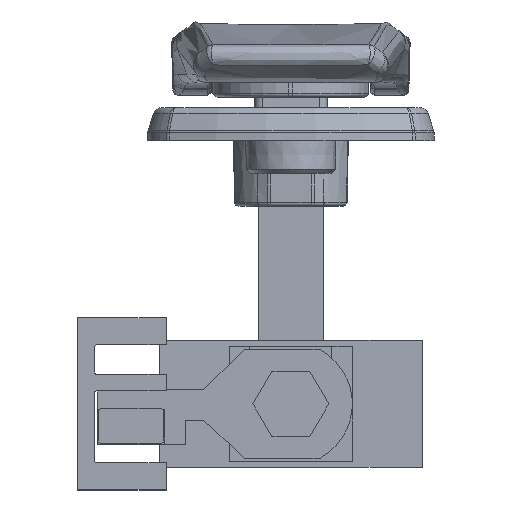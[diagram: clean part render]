
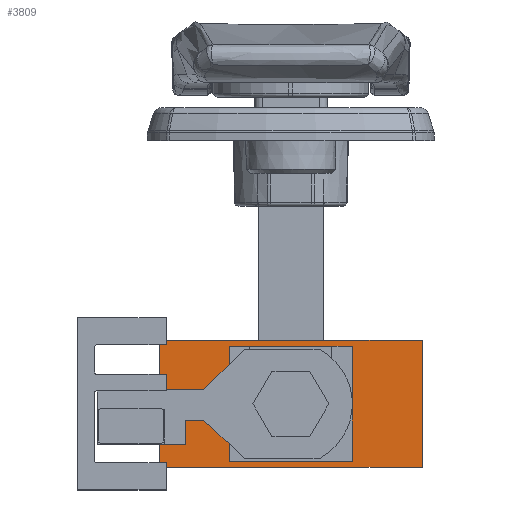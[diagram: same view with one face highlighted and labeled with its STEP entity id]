
A CAD part, front view. The second image highlights one B-rep face of the part: STEP entity #3809.
In plain terms, the highlighted planar face has unit normal (0, -1, 0).
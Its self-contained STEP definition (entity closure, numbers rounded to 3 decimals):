
#48 = DIRECTION ( 'NONE',  ( 0., 0., -1. ) ) ;
#974 = CARTESIAN_POINT ( 'NONE',  ( 16., -199.25, -7.75 ) ) ;
#1191 = LINE ( 'NONE', #9924, #6758 ) ;
#1461 = LINE ( 'NONE', #25277, #12759 ) ;
#2165 = VECTOR ( 'NONE', #48, 1000. ) ;
#3809 = ADVANCED_FACE ( 'NONE', ( #17919, #18346 ), #22322, .F. ) ;
#3998 = EDGE_CURVE ( 'NONE', #24719, #5207, #1191, .T. ) ;
#4315 = ORIENTED_EDGE ( 'NONE', *, *, #11459, .T. ) ;
#4778 = ORIENTED_EDGE ( 'NONE', *, *, #13298, .F. ) ;
#5096 = DIRECTION ( 'NONE',  ( 0., 1., 0. ) ) ;
#5207 = VERTEX_POINT ( 'NONE', #8205 ) ;
#5212 = ORIENTED_EDGE ( 'NONE', *, *, #20086, .F. ) ;
#6157 = DIRECTION ( 'NONE',  ( -1., 0., 0. ) ) ;
#6540 = CARTESIAN_POINT ( 'NONE',  ( -7., -199.25, 6.25 ) ) ;
#6758 = VECTOR ( 'NONE', #18614, 1000. ) ;
#7146 = EDGE_LOOP ( 'NONE', ( #12521, #5212, #4778, #27285 ) ) ;
#7763 = CARTESIAN_POINT ( 'NONE',  ( -7., -199.25, -6.25 ) ) ;
#8082 = EDGE_CURVE ( 'NONE', #17784, #18419, #9960, .T. ) ;
#8205 = CARTESIAN_POINT ( 'NONE',  ( 16., -199.25, 7.75 ) ) ;
#8711 = VERTEX_POINT ( 'NONE', #6540 ) ;
#8851 = VECTOR ( 'NONE', #23297, 1000. ) ;
#9924 = CARTESIAN_POINT ( 'NONE',  ( -16., -199.25, 7.75 ) ) ;
#9960 = LINE ( 'NONE', #10236, #23361 ) ;
#10104 = DIRECTION ( 'NONE',  ( 1., 0., 0. ) ) ;
#10236 = CARTESIAN_POINT ( 'NONE',  ( -16., -199.25, -7.75 ) ) ;
#10260 = CARTESIAN_POINT ( 'NONE',  ( 7., -199.25, 6.25 ) ) ;
#11459 = EDGE_CURVE ( 'NONE', #24719, #17784, #22165, .T. ) ;
#11875 = LINE ( 'NONE', #14418, #17762 ) ;
#12198 = CARTESIAN_POINT ( 'NONE',  ( -7., -199.25, -6.25 ) ) ;
#12464 = ORIENTED_EDGE ( 'NONE', *, *, #3998, .F. ) ;
#12465 = LINE ( 'NONE', #25659, #27442 ) ;
#12521 = ORIENTED_EDGE ( 'NONE', *, *, #12911, .F. ) ;
#12759 = VECTOR ( 'NONE', #22877, 1000. ) ;
#12761 = VERTEX_POINT ( 'NONE', #10260 ) ;
#12911 = EDGE_CURVE ( 'NONE', #8711, #22125, #1461, .T. ) ;
#13298 = EDGE_CURVE ( 'NONE', #23073, #12761, #11875, .T. ) ;
#14418 = CARTESIAN_POINT ( 'NONE',  ( 7., -199.25, 6.25 ) ) ;
#15729 = VECTOR ( 'NONE', #20719, 1000. ) ;
#16992 = CARTESIAN_POINT ( 'NONE',  ( -16., -199.25, 7.75 ) ) ;
#17517 = CARTESIAN_POINT ( 'NONE',  ( -16., -199.25, -7.75 ) ) ;
#17762 = VECTOR ( 'NONE', #23090, 1000. ) ;
#17784 = VERTEX_POINT ( 'NONE', #17517 ) ;
#17919 = FACE_BOUND ( 'NONE', #7146, .T. ) ;
#18346 = FACE_OUTER_BOUND ( 'NONE', #21983, .T. ) ;
#18419 = VERTEX_POINT ( 'NONE', #974 ) ;
#18614 = DIRECTION ( 'NONE',  ( 1., 0., 0. ) ) ;
#19049 = AXIS2_PLACEMENT_3D ( 'NONE', #26747, #5096, #22610 ) ;
#20086 = EDGE_CURVE ( 'NONE', #12761, #8711, #12465, .T. ) ;
#20719 = DIRECTION ( 'NONE',  ( 1., 0., 0. ) ) ;
#21304 = ORIENTED_EDGE ( 'NONE', *, *, #21307, .F. ) ;
#21307 = EDGE_CURVE ( 'NONE', #5207, #18419, #27579, .T. ) ;
#21983 = EDGE_LOOP ( 'NONE', ( #28231, #21304, #12464, #4315 ) ) ;
#22125 = VERTEX_POINT ( 'NONE', #7763 ) ;
#22145 = EDGE_CURVE ( 'NONE', #22125, #23073, #27849, .T. ) ;
#22165 = LINE ( 'NONE', #26590, #2165 ) ;
#22322 = PLANE ( 'NONE',  #19049 ) ;
#22610 = DIRECTION ( 'NONE',  ( 0., 0., 1. ) ) ;
#22801 = CARTESIAN_POINT ( 'NONE',  ( 7., -199.25, -6.25 ) ) ;
#22877 = DIRECTION ( 'NONE',  ( 0., 0., -1. ) ) ;
#23073 = VERTEX_POINT ( 'NONE', #22801 ) ;
#23090 = DIRECTION ( 'NONE',  ( 0., 0., 1. ) ) ;
#23297 = DIRECTION ( 'NONE',  ( 0., 0., -1. ) ) ;
#23361 = VECTOR ( 'NONE', #10104, 1000. ) ;
#24719 = VERTEX_POINT ( 'NONE', #16992 ) ;
#25277 = CARTESIAN_POINT ( 'NONE',  ( -7., -199.25, -6.25 ) ) ;
#25659 = CARTESIAN_POINT ( 'NONE',  ( 7., -199.25, 6.25 ) ) ;
#26590 = CARTESIAN_POINT ( 'NONE',  ( -16., -199.25, 7.75 ) ) ;
#26747 = CARTESIAN_POINT ( 'NONE',  ( -16., -199.25, 7.75 ) ) ;
#27285 = ORIENTED_EDGE ( 'NONE', *, *, #22145, .F. ) ;
#27442 = VECTOR ( 'NONE', #6157, 1000. ) ;
#27579 = LINE ( 'NONE', #27722, #8851 ) ;
#27722 = CARTESIAN_POINT ( 'NONE',  ( 16., -199.25, 7.75 ) ) ;
#27849 = LINE ( 'NONE', #12198, #15729 ) ;
#28231 = ORIENTED_EDGE ( 'NONE', *, *, #8082, .T. ) ;
